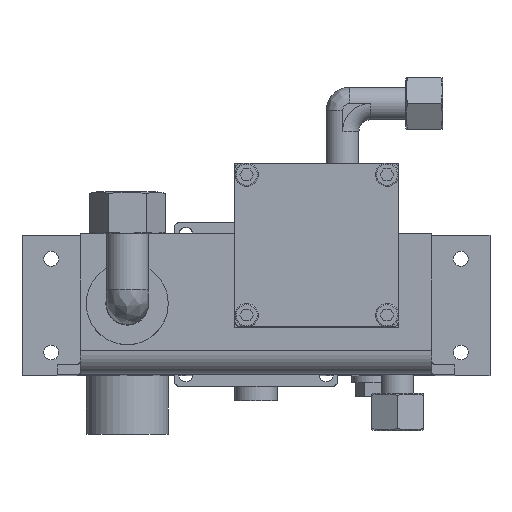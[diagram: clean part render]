
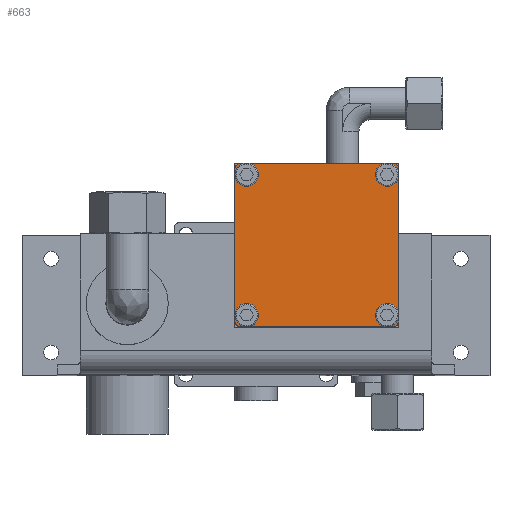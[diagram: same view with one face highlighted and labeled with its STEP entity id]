
A CAD part, top view. The second image highlights one B-rep face of the part: STEP entity #663.
In plain terms, the highlighted planar face has unit normal (0, 0, 1).
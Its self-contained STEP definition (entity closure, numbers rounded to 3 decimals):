
#663 = ADVANCED_FACE( '', ( #1508, #1509, #1510, #1511, #1512 ), #1513, .F. );
#1508 = FACE_BOUND( '', #2631, .T. );
#1509 = FACE_BOUND( '', #2632, .T. );
#1510 = FACE_BOUND( '', #2633, .T. );
#1511 = FACE_BOUND( '', #2634, .T. );
#1512 = FACE_OUTER_BOUND( '', #2635, .T. );
#1513 = PLANE( '', #2636 );
#2631 = EDGE_LOOP( '', ( #4351 ) );
#2632 = EDGE_LOOP( '', ( #4352 ) );
#2633 = EDGE_LOOP( '', ( #4353 ) );
#2634 = EDGE_LOOP( '', ( #4354 ) );
#2635 = EDGE_LOOP( '', ( #4355, #4356, #4357, #4358, #4359, #4360, #4361, #4362 ) );
#2636 = AXIS2_PLACEMENT_3D( '', #4363, #4364, #4365 );
#4351 = ORIENTED_EDGE( '', *, *, #6435, .T. );
#4352 = ORIENTED_EDGE( '', *, *, #6112, .T. );
#4353 = ORIENTED_EDGE( '', *, *, #6005, .T. );
#4354 = ORIENTED_EDGE( '', *, *, #6210, .T. );
#4355 = ORIENTED_EDGE( '', *, *, #6088, .F. );
#4356 = ORIENTED_EDGE( '', *, *, #6028, .T. );
#4357 = ORIENTED_EDGE( '', *, *, #6375, .F. );
#4358 = ORIENTED_EDGE( '', *, *, #6430, .T. );
#4359 = ORIENTED_EDGE( '', *, *, #6436, .F. );
#4360 = ORIENTED_EDGE( '', *, *, #6437, .T. );
#4361 = ORIENTED_EDGE( '', *, *, #6329, .F. );
#4362 = ORIENTED_EDGE( '', *, *, #6426, .T. );
#4363 = CARTESIAN_POINT( '', ( -35., -35., 70. ) );
#4364 = DIRECTION( '', ( 0., 0., -1. ) );
#4365 = DIRECTION( '', ( -1., 0., 0. ) );
#6005 = EDGE_CURVE( '', #7020, #7020, #7021, .T. );
#6028 = EDGE_CURVE( '', #7059, #7060, #7061, .F. );
#6088 = EDGE_CURVE( '', #7059, #7162, #7163, .T. );
#6112 = EDGE_CURVE( '', #7202, #7202, #7203, .T. );
#6210 = EDGE_CURVE( '', #7361, #7361, #7362, .T. );
#6329 = EDGE_CURVE( '', #7561, #7562, #7563, .T. );
#6375 = EDGE_CURVE( '', #7634, #7060, #7635, .T. );
#6426 = EDGE_CURVE( '', #7561, #7162, #7706, .F. );
#6430 = EDGE_CURVE( '', #7634, #7711, #7712, .F. );
#6435 = EDGE_CURVE( '', #7718, #7718, #7719, .T. );
#6436 = EDGE_CURVE( '', #7720, #7711, #7721, .T. );
#6437 = EDGE_CURVE( '', #7720, #7562, #7722, .F. );
#7020 = VERTEX_POINT( '', #8510 );
#7021 = CIRCLE( '', #8511, 3. );
#7059 = VERTEX_POINT( '', #8570 );
#7060 = VERTEX_POINT( '', #8571 );
#7061 = CIRCLE( '', #8572, 2.5 );
#7162 = VERTEX_POINT( '', #8734 );
#7163 = LINE( '', #8735, #8736 );
#7202 = VERTEX_POINT( '', #8801 );
#7203 = CIRCLE( '', #8802, 3. );
#7361 = VERTEX_POINT( '', #9036 );
#7362 = CIRCLE( '', #9037, 3. );
#7561 = VERTEX_POINT( '', #9319 );
#7562 = VERTEX_POINT( '', #9320 );
#7563 = LINE( '', #9321, #9322 );
#7634 = VERTEX_POINT( '', #9432 );
#7635 = LINE( '', #9433, #9434 );
#7706 = CIRCLE( '', #9551, 2.5 );
#7711 = VERTEX_POINT( '', #9556 );
#7712 = CIRCLE( '', #9557, 2.5 );
#7718 = VERTEX_POINT( '', #9564 );
#7719 = CIRCLE( '', #9565, 3. );
#7720 = VERTEX_POINT( '', #9566 );
#7721 = LINE( '', #9567, #9568 );
#7722 = CIRCLE( '', #9569, 2.5 );
#8510 = CARTESIAN_POINT( '', ( -30., 27., 70. ) );
#8511 = AXIS2_PLACEMENT_3D( '', #10476, #10477, #10478 );
#8570 = CARTESIAN_POINT( '', ( 35., 32.5, 70. ) );
#8571 = CARTESIAN_POINT( '', ( 32.5, 35., 70. ) );
#8572 = AXIS2_PLACEMENT_3D( '', #10500, #10501, #10502 );
#8734 = CARTESIAN_POINT( '', ( 35., -32.5, 70. ) );
#8735 = CARTESIAN_POINT( '', ( 35., 35., 70. ) );
#8736 = VECTOR( '', #10558, 1000. );
#8801 = CARTESIAN_POINT( '', ( 30., 27., 70. ) );
#8802 = AXIS2_PLACEMENT_3D( '', #10588, #10589, #10590 );
#9036 = CARTESIAN_POINT( '', ( -30., -33., 70. ) );
#9037 = AXIS2_PLACEMENT_3D( '', #10696, #10697, #10698 );
#9319 = CARTESIAN_POINT( '', ( 32.5, -35., 70. ) );
#9320 = CARTESIAN_POINT( '', ( -32.5, -35., 70. ) );
#9321 = CARTESIAN_POINT( '', ( 35., -35., 70. ) );
#9322 = VECTOR( '', #10824, 1000. );
#9432 = CARTESIAN_POINT( '', ( -32.5, 35., 70. ) );
#9433 = CARTESIAN_POINT( '', ( -35., 35., 70. ) );
#9434 = VECTOR( '', #10859, 1000. );
#9551 = AXIS2_PLACEMENT_3D( '', #10900, #10901, #10902 );
#9556 = CARTESIAN_POINT( '', ( -35., 32.5, 70. ) );
#9557 = AXIS2_PLACEMENT_3D( '', #10906, #10907, #10908 );
#9564 = CARTESIAN_POINT( '', ( 30., -33., 70. ) );
#9565 = AXIS2_PLACEMENT_3D( '', #10913, #10914, #10915 );
#9566 = CARTESIAN_POINT( '', ( -35., -32.5, 70. ) );
#9567 = CARTESIAN_POINT( '', ( -35., -35., 70. ) );
#9568 = VECTOR( '', #10916, 1000. );
#9569 = AXIS2_PLACEMENT_3D( '', #10917, #10918, #10919 );
#10476 = CARTESIAN_POINT( '', ( -30., 30., 70. ) );
#10477 = DIRECTION( '', ( 0., 0., -1. ) );
#10478 = DIRECTION( '', ( 0., -1., 0. ) );
#10500 = CARTESIAN_POINT( '', ( 32.5, 32.5, 70. ) );
#10501 = DIRECTION( '', ( 0., 0., -1. ) );
#10502 = DIRECTION( '', ( -1., 0., 0. ) );
#10558 = DIRECTION( '', ( 0., -1., 0. ) );
#10588 = CARTESIAN_POINT( '', ( 30., 30., 70. ) );
#10589 = DIRECTION( '', ( 0., 0., -1. ) );
#10590 = DIRECTION( '', ( 0., -1., 0. ) );
#10696 = CARTESIAN_POINT( '', ( -30., -30., 70. ) );
#10697 = DIRECTION( '', ( 0., 0., -1. ) );
#10698 = DIRECTION( '', ( 0., -1., 0. ) );
#10824 = DIRECTION( '', ( -1., 0., 0. ) );
#10859 = DIRECTION( '', ( 1., 0., 0. ) );
#10900 = CARTESIAN_POINT( '', ( 32.5, -32.5, 70. ) );
#10901 = DIRECTION( '', ( 0., 0., -1. ) );
#10902 = DIRECTION( '', ( -1., 0., 0. ) );
#10906 = CARTESIAN_POINT( '', ( -32.5, 32.5, 70. ) );
#10907 = DIRECTION( '', ( 0., 0., -1. ) );
#10908 = DIRECTION( '', ( -1., 0., 0. ) );
#10913 = CARTESIAN_POINT( '', ( 30., -30., 70. ) );
#10914 = DIRECTION( '', ( 0., 0., -1. ) );
#10915 = DIRECTION( '', ( 0., -1., 0. ) );
#10916 = DIRECTION( '', ( 0., 1., 0. ) );
#10917 = CARTESIAN_POINT( '', ( -32.5, -32.5, 70. ) );
#10918 = DIRECTION( '', ( 0., 0., -1. ) );
#10919 = DIRECTION( '', ( -1., 0., 0. ) );
